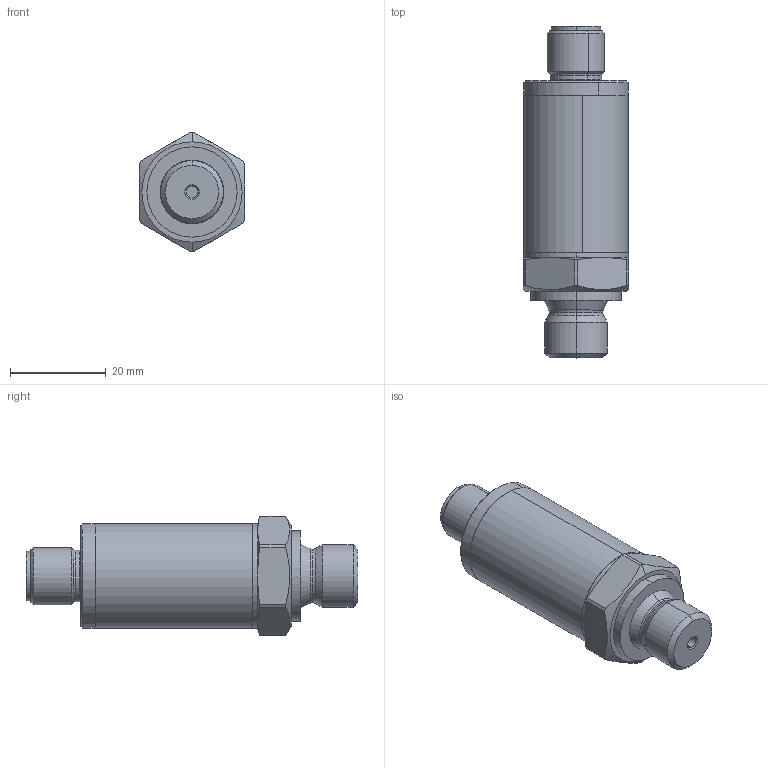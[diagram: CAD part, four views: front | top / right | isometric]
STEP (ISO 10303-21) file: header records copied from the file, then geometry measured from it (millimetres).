
FILE_DESCRIPTION (( 'STEP AP203' ), '1' );
FILE_NAME ('KS-N-A-Z-B01M-M-V.STEP', '2012-08-08T14:19:43', ( 'User' ), ( '' ), 'SwSTEP 2.0', 'SolidWorks 2012', '' );
FILE_SCHEMA (( 'CONFIG_CONTROL_DESIGN' ));
Length unit declared in the file: millimetre
Products named in the file (17): MEM990; NIP655; KS-N-A-Z-B01M-M-V; TAP391; CON555; CME394V; 56484; CSE394R0; CTT950; CON294; PKIT435; CME355; CON720; CSE355R1; ANE850; CSE392R0; CUS1602
Assembly tree (17 placements, depth 4):
  KS-N-A-Z-B01M-M-V
    NIP655
    MEM990
    CUS1602
    CSE392R0
    PKIT435
      ANE850
      CME355
        CSE355R1
        CON720  x2
    CON294
    CME394V
      CTT950
      CSE394R0
      56484
    CON555
    TAP391
Bounding box: 22 x 69.5 x 25 mm (x, y, z)
Volume: 12408.3 mm3; surface area: 14820 mm2
Topology: 16 solids, 16 shells, 1218 faces, 3090 edges, 1958 vertices
Faces by surface type: plane 583, cylinder 387, cone 137, bspline 79, torus 32
Entity records: 39044 total; most frequent: CARTESIAN_POINT 9243, ORIENTED_EDGE 5936, DIRECTION 5769, EDGE_CURVE 2968, AXIS2_PLACEMENT_3D 2144, VERTEX_POINT 1894, LINE 1481, VECTOR 1481
